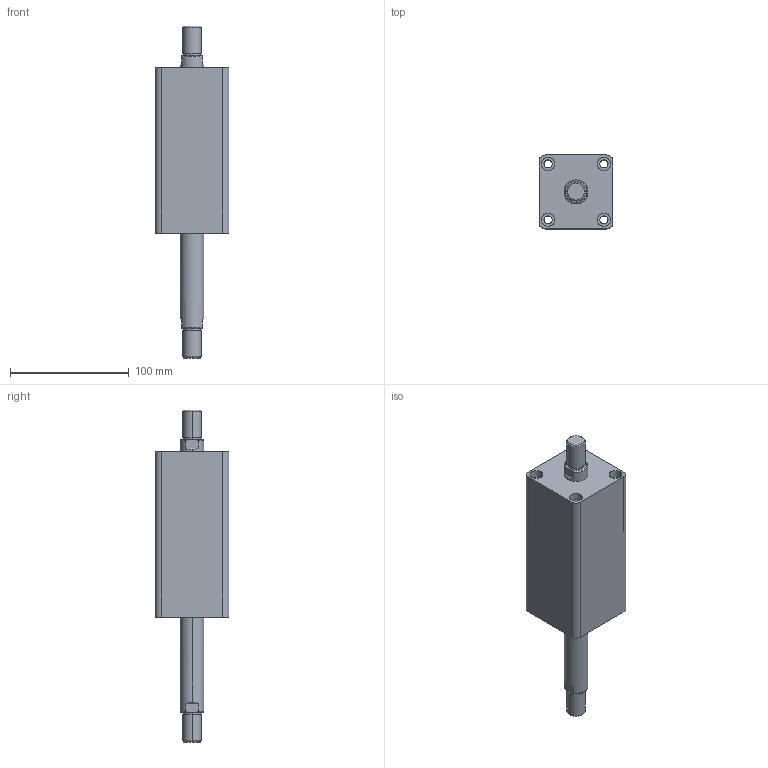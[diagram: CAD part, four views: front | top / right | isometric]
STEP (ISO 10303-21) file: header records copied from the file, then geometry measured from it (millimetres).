
FILE_DESCRIPTION (( 'STEP AP203' ), '1' );
FILE_NAME ('HTB-SW32-70W.STEP', '2019-10-07T08:56:23', ( '微软用户' ), ( '微软中国' ), 'SwSTEP 2.0', 'SolidWorks 2012', '' );
FILE_SCHEMA (( 'CONFIG_CONTROL_DESIGN' ));
Length unit declared in the file: millimetre
Products named in the file (3): HTB-SW32-70掛极; HTB-SW32-70W; HTB-SW32-70W活塞杆
Assembly tree (2 placements, depth 2):
  HTB-SW32-70W
    HTB-SW32-70掛极
    HTB-SW32-70W活塞杆
Bounding box: 62 x 62 x 279 mm (x, y, z)
Volume: 509328 mm3; surface area: 85458.8 mm2
Topology: 2 solids, 2 shells, 108 faces, 240 edges, 156 vertices
Faces by surface type: cylinder 52, plane 36, torus 12, cone 8
Entity records: 3449 total; most frequent: CARTESIAN_POINT 629, DIRECTION 586, ORIENTED_EDGE 480, AXIS2_PLACEMENT_3D 249, EDGE_CURVE 240, VERTEX_POINT 156, EDGE_LOOP 138, CIRCLE 136
